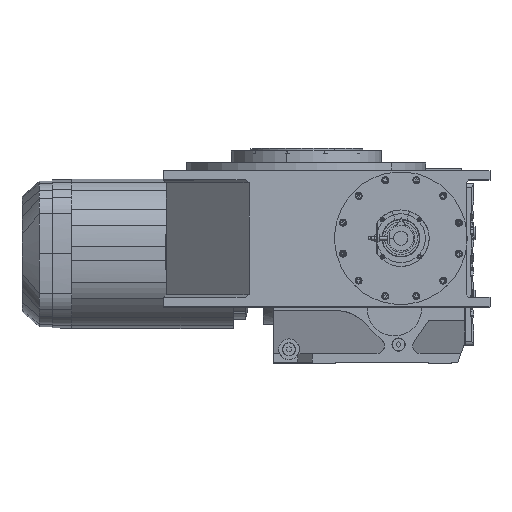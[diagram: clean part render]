
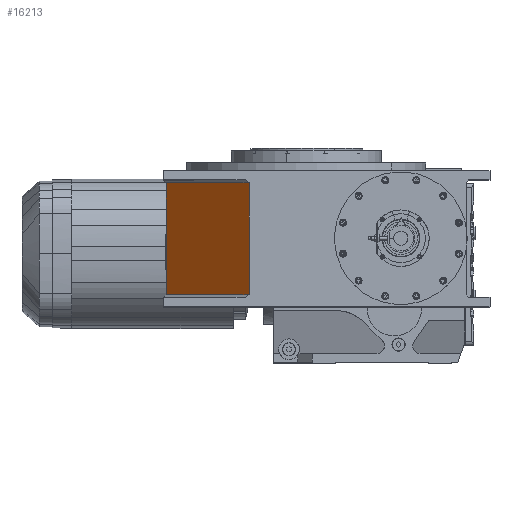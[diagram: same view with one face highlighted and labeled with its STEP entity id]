
A CAD part, top view. The second image highlights one B-rep face of the part: STEP entity #16213.
In plain terms, the highlighted planar face has unit normal (-0.707, 0, 0.707).
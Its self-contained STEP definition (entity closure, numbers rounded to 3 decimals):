
#4727 = ORIENTED_EDGE ( 'NONE', *, *, #10389, .T. ) ;
#9789 = LINE ( 'NONE', #81827, #21319 ) ;
#10389 = EDGE_CURVE ( 'NONE', #41192, #63502, #80739, .T. ) ;
#13534 = CARTESIAN_POINT ( 'NONE',  ( 182.511, 26., 298.5 ) ) ;
#14725 = DIRECTION ( 'NONE',  ( 0.707, 0., -0.707 ) ) ;
#16176 = EDGE_CURVE ( 'NONE', #24553, #75034, #66010, .T. ) ;
#16213 = ADVANCED_FACE ( 'NONE', ( #78527 ), #72951, .F. ) ;
#21319 = VECTOR ( 'NONE', #35522, 1000. ) ;
#21353 = CARTESIAN_POINT ( 'NONE',  ( 182.511, 26., 298.5 ) ) ;
#22978 = CARTESIAN_POINT ( 'NONE',  ( 182.511, 270., 298.5 ) ) ;
#24553 = VERTEX_POINT ( 'NONE', #45797 ) ;
#25227 = ORIENTED_EDGE ( 'NONE', *, *, #64122, .F. ) ;
#31607 = LINE ( 'NONE', #65413, #78904 ) ;
#34921 = CARTESIAN_POINT ( 'NONE',  ( 6., 26., 121.989 ) ) ;
#35211 = DIRECTION ( 'NONE',  ( -0.707, 0., -0.707 ) ) ;
#35522 = DIRECTION ( 'NONE',  ( 0., -1., 0. ) ) ;
#36928 = AXIS2_PLACEMENT_3D ( 'NONE', #22978, #14725, #35211 ) ;
#40506 = DIRECTION ( 'NONE',  ( 0.707, 0., 0.707 ) ) ;
#41192 = VERTEX_POINT ( 'NONE', #34921 ) ;
#41878 = EDGE_CURVE ( 'NONE', #75034, #41192, #31607, .T. ) ;
#42385 = ORIENTED_EDGE ( 'NONE', *, *, #41878, .T. ) ;
#45797 = CARTESIAN_POINT ( 'NONE',  ( 182.511, 264., 298.5 ) ) ;
#53538 = VECTOR ( 'NONE', #79803, 1000. ) ;
#58688 = CARTESIAN_POINT ( 'NONE',  ( 6., 264., 121.989 ) ) ;
#59112 = CARTESIAN_POINT ( 'NONE',  ( 6., 264., 121.989 ) ) ;
#63502 = VERTEX_POINT ( 'NONE', #13534 ) ;
#64122 = EDGE_CURVE ( 'NONE', #24553, #63502, #9789, .T. ) ;
#64357 = ORIENTED_EDGE ( 'NONE', *, *, #16176, .T. ) ;
#65413 = CARTESIAN_POINT ( 'NONE',  ( 6., 270., 121.989 ) ) ;
#66010 = LINE ( 'NONE', #59112, #53538 ) ;
#72951 = PLANE ( 'NONE',  #36928 ) ;
#75034 = VERTEX_POINT ( 'NONE', #58688 ) ;
#78527 = FACE_OUTER_BOUND ( 'NONE', #79580, .T. ) ;
#78904 = VECTOR ( 'NONE', #84897, 1000. ) ;
#79580 = EDGE_LOOP ( 'NONE', ( #25227, #64357, #42385, #4727 ) ) ;
#79803 = DIRECTION ( 'NONE',  ( -0.707, 0., -0.707 ) ) ;
#80739 = LINE ( 'NONE', #21353, #85385 ) ;
#81827 = CARTESIAN_POINT ( 'NONE',  ( 182.511, 270., 298.5 ) ) ;
#84897 = DIRECTION ( 'NONE',  ( 0., -1., 0. ) ) ;
#85385 = VECTOR ( 'NONE', #40506, 1000. ) ;
